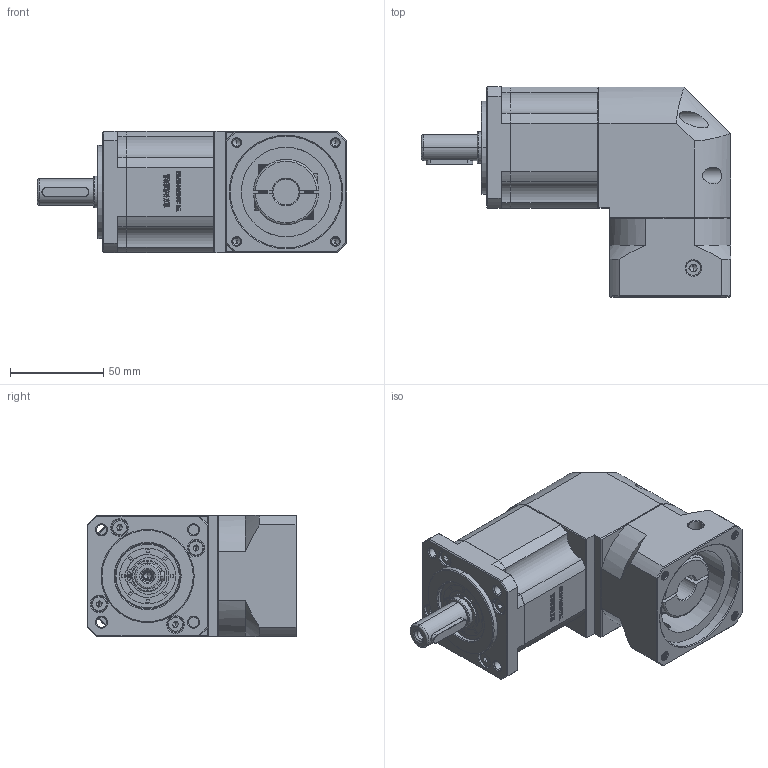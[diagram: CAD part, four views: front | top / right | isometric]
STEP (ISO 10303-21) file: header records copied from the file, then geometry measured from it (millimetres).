
FILE_DESCRIPTION (( 'STEP AP214' ), '1' );
FILE_NAME ('ZBR60-D14-L2-14-60-75-M5.STEP', '2022-04-19T09:00:30', ( '' ), ( 'Microsoft' ), 'SwSTEP 2.0', 'SolidWorks 2016', '' );
FILE_SCHEMA (( 'AUTOMOTIVE_DESIGN' ));
Length unit declared in the file: millimetre
Products named in the file (1): ZBR60-D14-L2-14-60-75-M5
Bounding box: 166 x 112.7 x 65 mm (x, y, z)
Volume: 600848.3 mm3; surface area: 83010.1 mm2
Topology: 5 solids, 5 shells, 2843 faces, 7713 edges, 5006 vertices
Faces by surface type: plane 1472, bspline 579, cylinder 432, cone 326, torus 34
Entity records: 155129 total; most frequent: CARTESIAN_POINT 56505, ORIENTED_EDGE 15366, DIRECTION 11725, EDGE_CURVE 7683, LINE 5057, VECTOR 5057, VERTEX_POINT 5006, AXIS2_PLACEMENT_3D 3334
